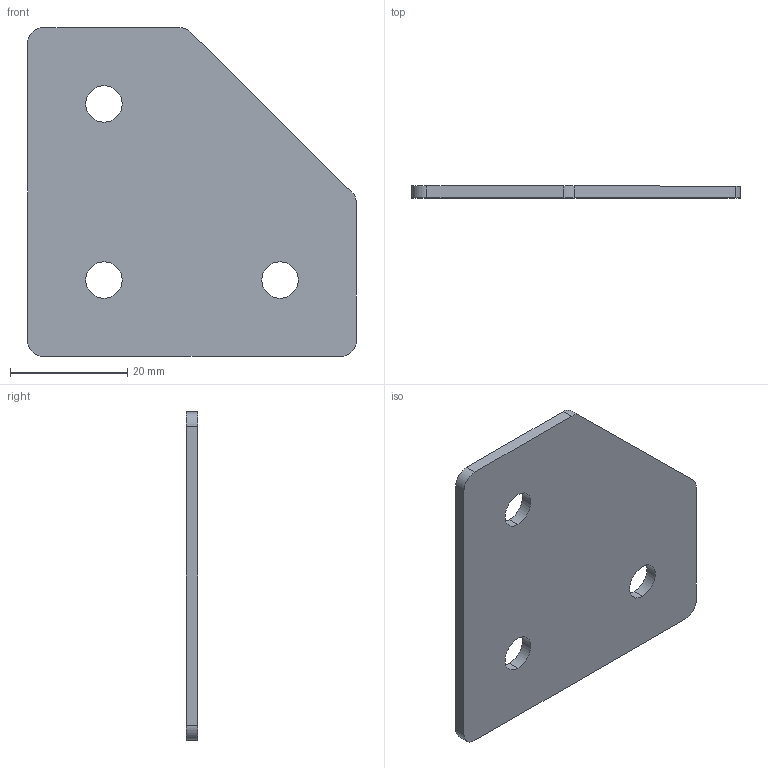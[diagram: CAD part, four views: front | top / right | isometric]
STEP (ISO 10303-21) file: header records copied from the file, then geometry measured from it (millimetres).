
FILE_DESCRIPTION (( 'STEP AP203' ), '1' );
FILE_NAME ('ﾃ-3-ﾓ-30.STEP', '2016-07-19T10:45:12', ( 'RosInstal-MKM' ), ( '' ), 'SwSTEP 2.0', 'SolidWorks 2014', '' );
FILE_SCHEMA (( 'CONFIG_CONTROL_DESIGN' ));
Length unit declared in the file: millimetre
Products named in the file (1): ﾃ-3-ﾓ-30
Bounding box: 56 x 2 x 56 mm (x, y, z)
Volume: 5247.5 mm3; surface area: 5771.4 mm2
Topology: 1 solids, 1 shells, 18 faces, 48 edges, 32 vertices
Faces by surface type: cylinder 11, plane 7
Entity records: 663 total; most frequent: DIRECTION 108, CARTESIAN_POINT 99, ORIENTED_EDGE 96, EDGE_CURVE 48, AXIS2_PLACEMENT_3D 41, VERTEX_POINT 32, VECTOR 26, LINE 26
